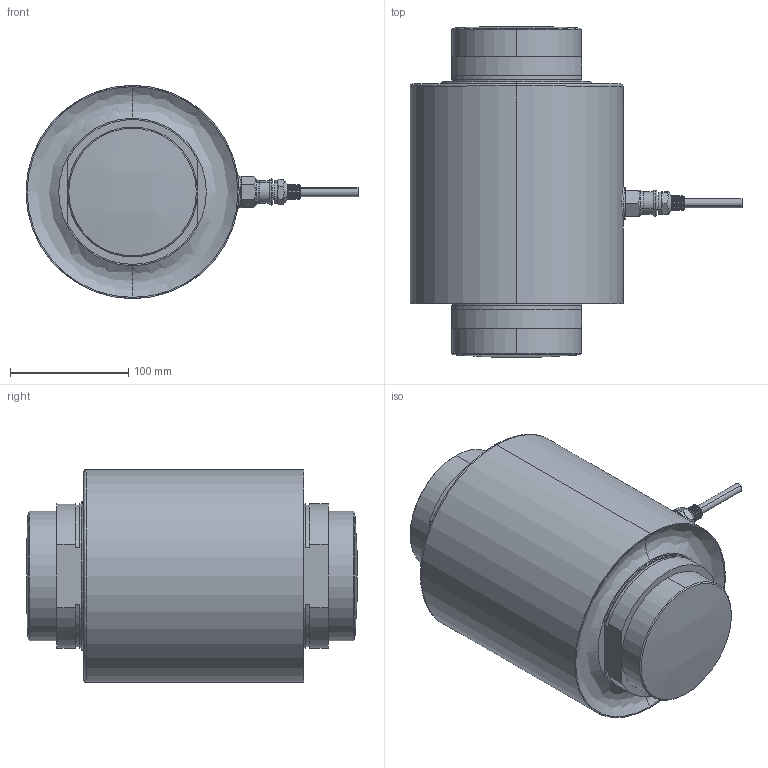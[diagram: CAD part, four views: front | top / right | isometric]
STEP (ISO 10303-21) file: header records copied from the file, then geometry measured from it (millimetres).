
FILE_DESCRIPTION (( 'STEP AP203' ), '1' );
FILE_NAME ('Load_Sensor_HIRCH03_660KLB.STEP', '2022-06-01T21:49:55', ( '' ), ( '' ), 'SwSTEP 2.0', 'SolidWorks 2020', '' );
FILE_SCHEMA (( 'CONFIG_CONTROL_DESIGN' ));
Length unit declared in the file: millimetre
Products named in the file (9): Adapter Nut; Cable Adapter; Cable; RC3-300T; Socket Set Screw Cup Point_AI_SSCUPSKT 0.5-20x0.5-HX-C; Hardy Cable Assembly; RC3-300T-GP Hardy; Load_Sensor_HIRCH03_660KLB
Assembly tree (8 placements, depth 4):
  Load_Sensor_HIRCH03_660KLB
    RC3-300T-GP Hardy
      RC3-300T
    Hardy Cable Assembly
      Adapter Nut
        Socket Set Screw Cup Point_AI_SSCUPSKT 0.5-20x0.5-HX-C
        Adapter Nut
      Cable
      Cable Adapter
Bounding box: 281 x 279.71 x 180.36 mm (x, y, z)
Volume: 5675700.5 mm3; surface area: 200615 mm2
Topology: 5 solids, 5 shells, 188 faces, 433 edges, 260 vertices
Faces by surface type: cylinder 66, cone 60, plane 45, bspline 17
Entity records: 7354 total; most frequent: CARTESIAN_POINT 2128, DIRECTION 976, ORIENTED_EDGE 856, EDGE_CURVE 428, AXIS2_PLACEMENT_3D 396, VERTEX_POINT 260, CIRCLE 211, EDGE_LOOP 202
